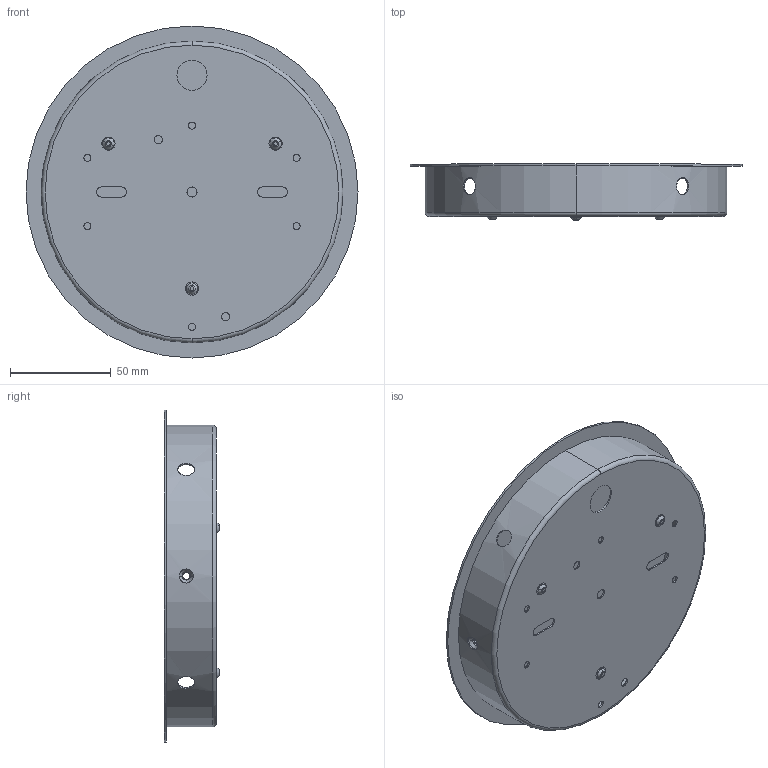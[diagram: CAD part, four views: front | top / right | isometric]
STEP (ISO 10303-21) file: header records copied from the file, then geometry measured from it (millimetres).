
FILE_DESCRIPTION (( 'STEP AP214' ), '1' );
FILE_NAME ('Canopy_ System.STEP', '2020-04-30T10:12:52', ( '' ), ( '' ), 'SwSTEP 2.0', 'SolidWorks 2018', '' );
FILE_SCHEMA (( 'AUTOMOTIVE_DESIGN' ));
Length unit declared in the file: millimetre
Products named in the file (3): Tapa Floron; Base Floron; Canopy_ System
Assembly tree (2 placements, depth 2):
  Canopy_ System
    Base Floron
    Tapa Floron
Bounding box: 165 x 27.7 x 165 mm (x, y, z)
Volume: 48043.5 mm3; surface area: 101766.1 mm2
Topology: 2 solids, 2 shells, 132 faces, 308 edges, 188 vertices
Faces by surface type: cylinder 60, torus 28, plane 24, cone 20
Entity records: 4714 total; most frequent: CARTESIAN_POINT 1419, DIRECTION 730, ORIENTED_EDGE 616, AXIS2_PLACEMENT_3D 311, EDGE_CURVE 308, VERTEX_POINT 188, EDGE_LOOP 180, CIRCLE 174
